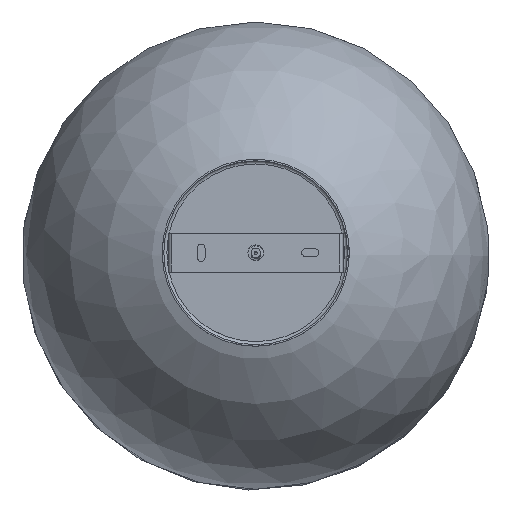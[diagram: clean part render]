
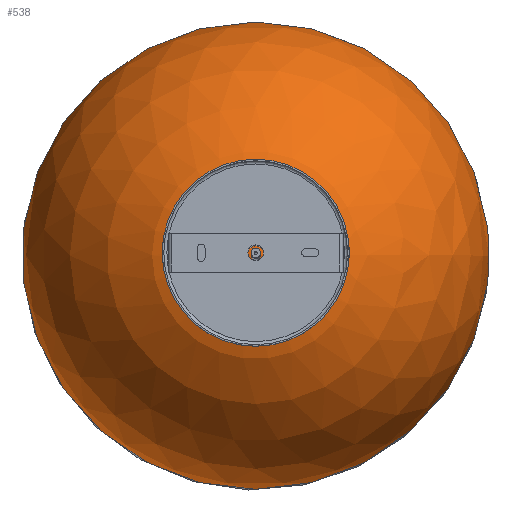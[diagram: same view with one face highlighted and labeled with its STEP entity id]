
A CAD part, top view. The second image highlights one B-rep face of the part: STEP entity #538.
In plain terms, the highlighted spherical face has radius 150 mm.
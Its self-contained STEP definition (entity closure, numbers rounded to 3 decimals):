
#538 = ADVANCED_FACE( '', ( #899 ), #900, .T. );
#899 = FACE_OUTER_BOUND( '', #1377, .T. );
#900 = SPHERICAL_SURFACE( '', #1378, 150. );
#1377 = EDGE_LOOP( '', ( #3407 ) );
#1378 = AXIS2_PLACEMENT_3D( '', #3408, #3409, #3410 );
#3407 = ORIENTED_EDGE( '', *, *, #4465, .T. );
#3408 = CARTESIAN_POINT( '', ( 0., 0., 145. ) );
#3409 = DIRECTION( '', ( 0., 0., -1. ) );
#3410 = DIRECTION( '', ( 1., 0., 0. ) );
#4465 = EDGE_CURVE( '', #4945, #4945, #4946, .T. );
#4945 = VERTEX_POINT( '', #5657 );
#4946 = CIRCLE( '', #5658, 56.25 );
#5657 = CARTESIAN_POINT( '', ( 56.25, 0., 5.946 ) );
#5658 = AXIS2_PLACEMENT_3D( '', #7404, #7405, #7406 );
#7404 = CARTESIAN_POINT( '', ( 0., 0., 5.946 ) );
#7405 = DIRECTION( '', ( 0., 0., 1. ) );
#7406 = DIRECTION( '', ( 1., 0., 0. ) );
